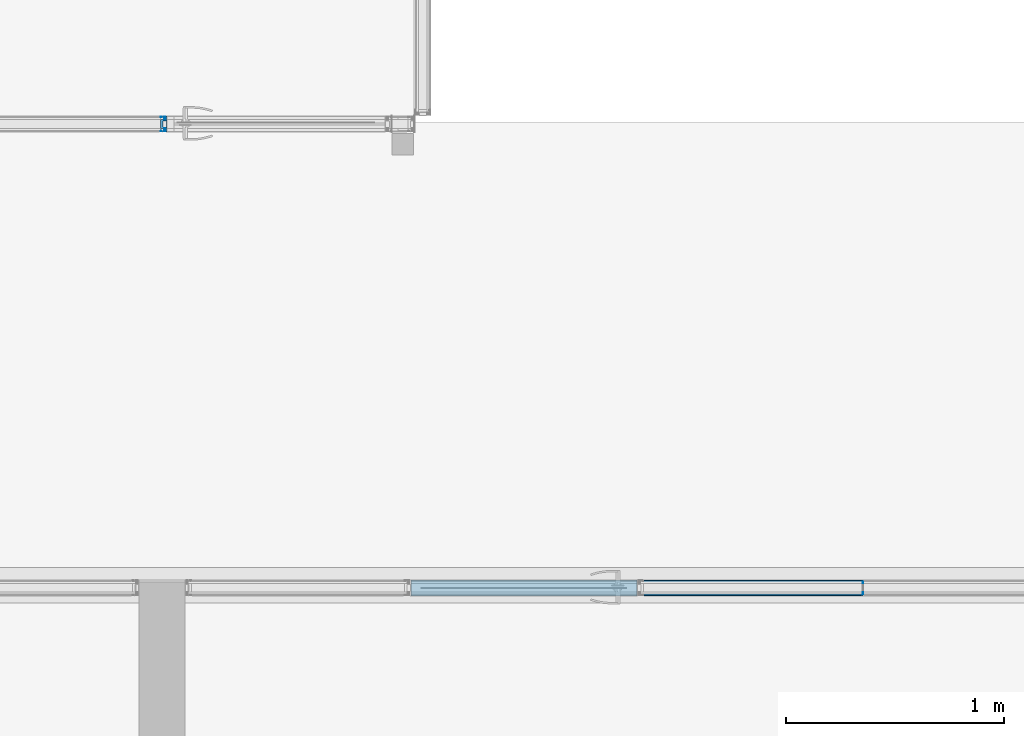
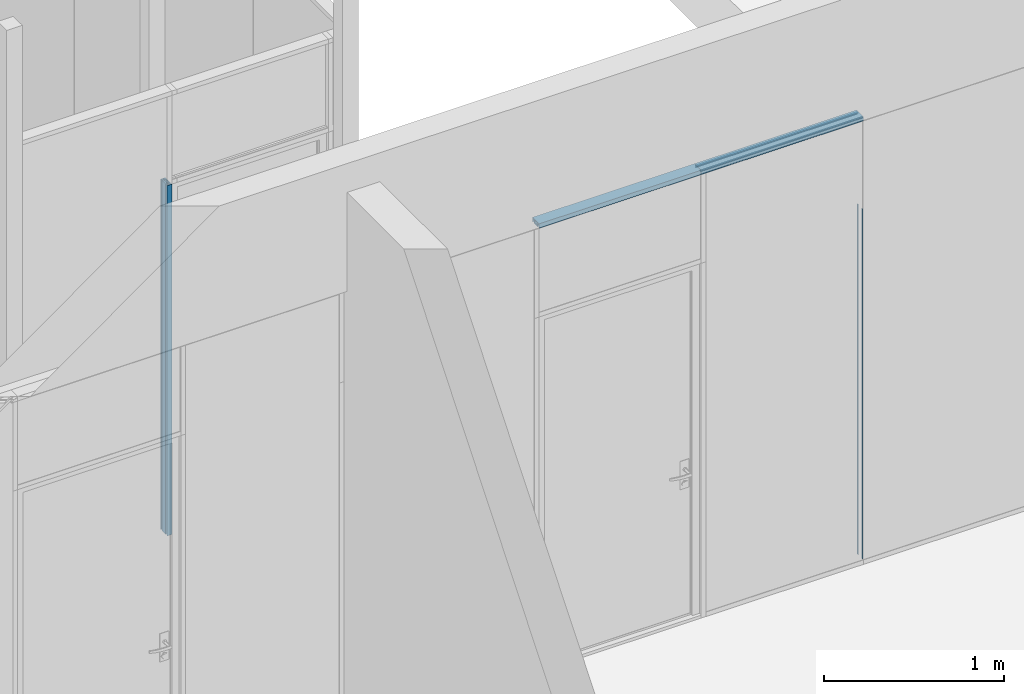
# One storey, part 81 of 387: 6 building element parts, 6 elements without a shape of their own.
"""IFC2X3 building model written with IfcOpenShell, lengths in millimetres."""

from ifc_helpers import new_model, entity, si_unit, converted_unit, derived_unit, money_unit, direction, frame, origin_with_axes, place, context, subcontext, project, spatial, faceted_brep, source, transform, mapped, material, type_object, element, aggregate, save


model = new_model("IFC2X3")

# Units and contexts
model_context = context("Model", 3, precision=0.01, world=origin_with_axes(), true_north=direction((0.0, 1.0)))
body_context = subcontext(model_context, "Body", "Model", "MODEL_VIEW")
ifc_project = project(units=[si_unit("LENGTHUNIT", "METRE", prefix="MILLI"), si_unit("AREAUNIT", "SQUARE_METRE"), si_unit("VOLUMEUNIT", "CUBIC_METRE"), converted_unit("PLANEANGLEUNIT", "DEGREE", entity("IfcPlaneAngleMeasure", 0.0174532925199), si_unit("PLANEANGLEUNIT", "RADIAN"), dimensions=[0, 0, 0, 0, 0, 0, 0]), si_unit("SOLIDANGLEUNIT", "STERADIAN"), money_unit("EUR"), converted_unit("TIMEUNIT", "Year", entity("IfcTimeMeasure", 31556926.0), si_unit("TIMEUNIT", "SECOND"), dimensions=[0, 0, 1, 0, 0, 0, 0]), si_unit("MASSUNIT", "GRAM", prefix="KILO"), si_unit("THERMODYNAMICTEMPERATUREUNIT", "DEGREE_CELSIUS"), si_unit("LUMINOUSINTENSITYUNIT", "LUMEN"), si_unit("ENERGYUNIT", "JOULE", prefix="MEGA"), derived_unit("THERMALCONDUCTANCEUNIT", [(si_unit("POWERUNIT", "WATT"), 1), (si_unit("LENGTHUNIT", "METRE"), -1), (si_unit("THERMODYNAMICTEMPERATUREUNIT", "KELVIN"), -1)]), derived_unit("SPECIFICHEATCAPACITYUNIT", [(si_unit("ENERGYUNIT", "JOULE"), 1), (si_unit("MASSUNIT", "GRAM", prefix="KILO"), -1), (si_unit("THERMODYNAMICTEMPERATUREUNIT", "KELVIN"), -1)]), derived_unit("MASSDENSITYUNIT", [(si_unit("MASSUNIT", "GRAM", prefix="KILO"), 1), (si_unit("VOLUMEUNIT", "CUBIC_METRE"), -1)])], contexts=[model_context])

# Site, building, storey
site_placement = place(None, origin_with_axes())
site = spatial("IfcSite", under=ifc_project, at=site_placement, Name="Puškini 31, Narva", CompositionType="ELEMENT")
building_placement = place(site_placement, origin_with_axes())
building = spatial("IfcBuilding", under=site, at=building_placement, Name="Narva Riigigümnaasium", CompositionType="ELEMENT")
storey_placement = place(building_placement, frame((0.0, 0.0, 2640.0), z_axis=(0.0, 0.0, 1.0), x_axis=(1.0, 0.0, 0.0)))
storey = spatial("IfcBuildingStorey", under=building, at=storey_placement, Name="2.korrus +2.64", CompositionType="ELEMENT", Elevation=2640.0)

# Curtain wall, member, building element part
curtain_wall_type = type_object("IfcCurtainWallType", Name="Curtain Wall Type", PredefinedType="NOTDEFINED")
curtain_wall_1_placement = place(storey_placement, frame((41856.9999981, 173462.999993, -5.89838209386e-05), z_axis=(0.0, 0.0, 1.0), x_axis=(1.0, 0.0, 0.0)))
curtain_wall_1 = element("IfcCurtainWall", 1, at=curtain_wall_1_placement, inside=storey, type_object=curtain_wall_type, Name="G-SKLF-26")
member_type_1 = type_object("IfcMemberType", Name="Siseklaasfassaad - Raam n2htamatu 3 x 29", PredefinedType="MULLION")
member_1_placement = place(curtain_wall_1_placement, frame((1557.0, -1.52624579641e-08, 0.0), z_axis=(0.0, 0.0, 1.0), x_axis=(-1.0, 0.0, 0.0)))
member_1 = element("IfcMember", 2, at=member_1_placement, type_object=member_type_1, Name="Frame-Siseklaasf-005", ObjectType="MULLION")
ifc_material_1 = material(Name="Klaas")
shared_shape_1 = source(origin_with_axes(), body_context, "Body", "Brep", [
    faceted_brep([(-1.5000138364, 20.0064497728, 30.0000193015), (1.4999861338, 20.0064497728, 30.0000193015), (1.4999861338, 20.0064497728, 2400.00012431), (-1.5000138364, 20.0064497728, 2400.00012431), (-1.5000138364, 29.0064496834, 30.0000193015), (1.4999861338, 29.0064496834, 30.0000193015), (1.4999861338, 29.0064496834, 2400.00012431), (-1.5000138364, 29.0064496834, 2400.00012431)], [[[0, 1, 2, 3]], [[1, 0, 4, 5]], [[1, 5, 6, 2]], [[2, 6, 7, 3]], [[4, 0, 3, 7]], [[5, 4, 7, 6]]]),
    faceted_brep([(1.4999861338, -28.9935503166, 30.0000193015), (1.4999861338, -19.993550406, 30.0000193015), (1.4999861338, -19.993550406, 2400.00012431), (1.4999861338, -28.9935503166, 2400.00012431), (-1.5000138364, -28.9935503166, 30.0000193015), (-1.5000138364, -19.993550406, 30.0000193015), (-1.5000138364, -19.993550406, 2400.00012431), (-1.5000138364, -28.9935503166, 2400.00012431)], [[[0, 1, 2, 3]], [[1, 0, 4, 5]], [[1, 5, 6, 2]], [[2, 6, 7, 3]], [[4, 0, 3, 7]], [[5, 4, 7, 6]]]),
])
building_element_part_1_placement = place(member_1_placement, origin_with_axes())
building_element_part_1 = element("IfcBuildingElementPart", 3, at=building_element_part_1_placement, material=ifc_material_1, Name="Klaas", context=body_context, shape_type="MappedRepresentation", body=[
    mapped(shared_shape_1, transform((0.0, 0.0, 0.0), x_axis=(-1.0, 0.0, 0.0), y_axis=(0.0, -1.0, 0.0), z_axis=(0.0, 0.0, 1.0))),
])
aggregate(member_1, [building_element_part_1])

# Curtain wall, member, building element parts
curtain_wall_2_placement = place(storey_placement, frame((41281.9672345, 175592.500019, -3.22566622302e-05), z_axis=(0.0, 0.0, 1.0), x_axis=(1.0, 0.0, 0.0)))
curtain_wall_2 = element("IfcCurtainWall", 4, at=curtain_wall_2_placement, inside=storey, type_object=curtain_wall_type, Name="G-SKLF-38")
member_type_2 = type_object("IfcMemberType", Name="30 x 37", PredefinedType="MULLION")
member_2_placement = place(curtain_wall_2_placement, frame((-1063.6642258, 1.90425453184e-09, 0.0), z_axis=(0.0, 0.0, 1.0), x_axis=(-1.0, 0.0, 0.0)))
member_2 = element("IfcMember", 5, at=member_2_placement, type_object=member_type_2, Name="G-SKLF-52-raam", ObjectType="MULLION")
aggregate(curtain_wall_2, [member_2])
ifc_material_2 = material(Name="Klaasvill")
shared_shape_2 = source(origin_with_axes(), body_context, "Body", "Brep", [
    faceted_brep([(13.8499999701, 20.000000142, 30.0000193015), (13.8499999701, 20.000000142, 2400.0), (7.49999990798, 20.000000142, 2400.0), (7.49999990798, 20.000000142, 30.0000193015), (13.8499999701, 34.0161444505, 30.0000193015), (13.8499999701, 34.0161444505, 2400.0), (7.49999990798, 34.0161444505, 2400.0), (7.49999990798, 34.0161444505, 30.0000193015)], [[[0, 1, 2, 3]], [[4, 5, 1, 0]], [[2, 1, 5, 6]], [[3, 2, 6, 7]], [[3, 7, 4, 0]], [[7, 6, 5, 4]]]),
    faceted_brep([(25.004489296, 32.0307503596, 30.0000193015), (25.004489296, 32.0307503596, 2400.0), (24.987414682, 34.0161444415, 2400.0), (24.987414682, 34.0161444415, 30.0000193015), (25.742237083, 31.2930025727, 30.0000193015), (25.742237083, 31.2930025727, 2400.0), (26.7500193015, 31.0229681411, 2400.0), (27.75780152, 31.2930025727, 2400.0), (28.4955493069, 32.0307503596, 2400.0), (28.7655837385, 33.0385325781, 2400.0), (28.5126239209, 34.0161444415, 2400.0), (28.5126239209, 34.0161444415, 30.0000193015), (28.7655837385, 33.0385325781, 30.0000193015), (28.4955493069, 32.0307503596, 30.0000193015), (27.75780152, 31.2930025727, 30.0000193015), (26.7500193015, 31.0229681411, 30.0000193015)], [[[0, 1, 2, 3]], [[4, 5, 1, 0]], [[2, 1, 5, 6, 7, 8, 9, 10]], [[3, 2, 10, 11]], [[3, 11, 12, 13, 14, 15, 4, 0]], [[15, 6, 5, 4]], [[14, 7, 6, 15]], [[13, 8, 7, 14]], [[12, 9, 8, 13]], [[11, 10, 9, 12]]]),
    faceted_brep([(7.49999990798, -34.0161445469, 30.0000193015), (7.49999990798, -34.0161445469, 2400.0), (7.49999990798, -19.9999997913, 2400.0), (7.49999990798, -19.9999997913, 30.0000193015), (13.8499999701, -34.0161445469, 30.0000193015), (13.8499999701, -34.0161445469, 2400.0), (13.8499999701, -19.9999997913, 2400.0), (13.8499999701, -19.9999997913, 30.0000193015)], [[[0, 1, 2, 3]], [[4, 5, 1, 0]], [[2, 1, 5, 6]], [[3, 2, 6, 7]], [[3, 7, 4, 0]], [[7, 6, 5, 4]]]),
    faceted_brep([(24.987414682, -34.0161444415, 30.0000193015), (24.987414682, -34.0161444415, 2400.0), (25.004489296, -32.0307503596, 2400.0), (25.004489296, -32.0307503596, 30.0000193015), (28.5126239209, -34.0161444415, 30.0000193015), (28.5126239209, -34.0161444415, 2400.0), (28.7655837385, -33.0385325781, 2400.0), (28.4955493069, -32.0307503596, 2400.0), (27.75780152, -31.2930025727, 2400.0), (26.7500193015, -31.0229681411, 2400.0), (25.742237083, -31.2930025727, 2400.0), (25.742237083, -31.2930025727, 30.0000193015), (26.7500193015, -31.0229681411, 30.0000193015), (27.75780152, -31.2930025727, 30.0000193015), (28.4955493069, -32.0307503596, 30.0000193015), (28.7655837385, -33.0385325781, 30.0000193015)], [[[0, 1, 2, 3]], [[4, 5, 1, 0]], [[2, 1, 5, 6, 7, 8, 9, 10]], [[3, 2, 10, 11]], [[3, 11, 12, 13, 14, 15, 4, 0]], [[15, 6, 5, 4]], [[14, 7, 6, 15]], [[13, 8, 7, 14]], [[12, 9, 8, 13]], [[11, 10, 9, 12]]]),
])
building_element_part_2_placement = place(member_2_placement, origin_with_axes())
building_element_part_2 = element("IfcBuildingElementPart", 6, at=building_element_part_2_placement, material=ifc_material_2, Name="Klaasvill", context=body_context, shape_type="MappedRepresentation", body=[
    mapped(shared_shape_2, transform((0.0, 0.0, 0.0))),
])
ifc_material_3 = material(Name="Teras RAL7012")
shared_shape_3 = source(origin_with_axes(), body_context, "Body", "Brep", [
    faceted_brep([(29.5999996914, -17.0000000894, 30.0000193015), (29.5999996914, -17.0000000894, 2400.0), (0.0, -17.0000000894, 2400.0), (0.0, -17.0000000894, 30.0000193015), (29.5999996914, 17.0000000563, 30.0000193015), (29.5999996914, 17.0000000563, 2400.0), (0.0, 17.0000000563, 2400.0), (1.9999999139, 15.0000001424, 2400.0), (18.7999996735, 15.0000001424, 2400.0), (18.7999996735, -15.0000001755, 2400.0), (1.9999999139, -15.0000001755, 2400.0), (0.0, 17.0000000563, 30.0000193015), (1.9999999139, 15.0000001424, 30.0000193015), (1.9999999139, -15.0000001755, 30.0000193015), (18.7999996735, -15.0000001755, 30.0000193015), (18.7999996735, 15.0000001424, 30.0000193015)], [[[0, 1, 2, 3]], [[4, 5, 1, 0]], [[2, 1, 5, 6], [7, 8, 9, 10]], [[3, 2, 6, 11]], [[3, 11, 4, 0], [12, 13, 14, 15]], [[11, 6, 5, 4]], [[15, 8, 7, 12]], [[14, 9, 8, 15]], [[13, 10, 9, 14]], [[12, 7, 10, 13]]]),
    faceted_brep([(29.5999996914, 17.0000000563, 30.0000193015), (29.5999996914, 17.0000000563, 2400.0), (0.0, 17.0, 2400.0), (0.0, 17.0, 30.0000193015), (30.0000193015, 17.0, 30.0000193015), (30.0000193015, 17.0, 2400.0), (30.0000193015, 20.0, 2400.0), (13.8499999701, 20.000000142, 2400.0), (7.49999999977, 20.0, 2400.0), (7.49999999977, 34.0161444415, 2400.0), (13.8499999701, 34.0161444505, 2400.0), (24.987414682, 34.0161444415, 2400.0), (28.5126239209, 34.0161444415, 2400.0), (30.0000193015, 34.0161444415, 2400.0), (30.0000193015, 37.0, 2400.0), (0.0, 37.0, 2400.0), (0.0, 37.0, 30.0000193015), (30.0000193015, 37.0, 30.0000193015), (30.0000193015, 34.0161444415, 30.0000193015), (28.5126239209, 34.0161444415, 30.0000193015), (24.987414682, 34.0161444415, 30.0000193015), (13.8499999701, 34.0161444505, 30.0000193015), (7.49999999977, 34.0161444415, 30.0000193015), (7.49999999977, 20.0, 30.0000193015), (13.8499999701, 20.000000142, 30.0000193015), (30.0000193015, 20.0, 30.0000193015)], [[[0, 1, 2, 3]], [[4, 5, 1, 0]], [[2, 1, 5, 6, 7, 8, 9, 10, 11, 12, 13, 14, 15]], [[3, 2, 15, 16]], [[3, 16, 17, 18, 19, 20, 21, 22, 23, 24, 25, 4, 0]], [[25, 6, 5, 4]], [[24, 7, 6, 25]], [[23, 8, 7, 24]], [[22, 9, 8, 23]], [[21, 10, 9, 22]], [[20, 11, 10, 21]], [[19, 12, 11, 20]], [[18, 13, 12, 19]], [[17, 14, 13, 18]], [[16, 15, 14, 17]]]),
    faceted_brep([(0.0, -37.0, 30.0000193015), (0.0, -37.0, 2400.0), (0.0, -17.0, 2400.0), (0.0, -17.0, 30.0000193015), (30.0000193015, -37.0, 30.0000193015), (30.0000193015, -37.0, 2400.0), (30.0000193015, -34.0161444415, 2400.0), (28.5126239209, -34.0161444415, 2400.0), (24.987414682, -34.0161444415, 2400.0), (13.8499999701, -34.0161445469, 2400.0), (7.49999999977, -34.0161444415, 2400.0), (7.49999999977, -20.0, 2400.0), (13.8499999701, -19.9999997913, 2400.0), (30.0000193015, -20.0, 2400.0), (30.0000193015, -17.0, 2400.0), (29.5999996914, -17.0000000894, 2400.0), (29.5999996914, -17.0000000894, 30.0000193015), (30.0000193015, -17.0, 30.0000193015), (30.0000193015, -20.0, 30.0000193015), (13.8499999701, -19.9999997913, 30.0000193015), (7.49999999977, -20.0, 30.0000193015), (7.49999999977, -34.0161444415, 30.0000193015), (13.8499999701, -34.0161445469, 30.0000193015), (24.987414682, -34.0161444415, 30.0000193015), (28.5126239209, -34.0161444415, 30.0000193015), (30.0000193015, -34.0161444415, 30.0000193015)], [[[0, 1, 2, 3]], [[4, 5, 1, 0]], [[2, 1, 5, 6, 7, 8, 9, 10, 11, 12, 13, 14, 15]], [[3, 2, 15, 16]], [[3, 16, 17, 18, 19, 20, 21, 22, 23, 24, 25, 4, 0]], [[25, 6, 5, 4]], [[24, 7, 6, 25]], [[23, 8, 7, 24]], [[22, 9, 8, 23]], [[21, 10, 9, 22]], [[20, 11, 10, 21]], [[19, 12, 11, 20]], [[18, 13, 12, 19]], [[17, 14, 13, 18]], [[16, 15, 14, 17]]]),
])
building_element_part_3_placement = place(member_2_placement, origin_with_axes())
building_element_part_3 = element("IfcBuildingElementPart", 7, at=building_element_part_3_placement, material=ifc_material_3, Name="Teras RAL7012", context=body_context, shape_type="MappedRepresentation", body=[
    mapped(shared_shape_3, transform((0.0, 0.0, 0.0))),
])
aggregate(member_2, [building_element_part_2, building_element_part_3])

# Member, building element part
member_3_placement = place(curtain_wall_1_placement, frame((519.0, -5.05906427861e-09, 3029.99999291), z_axis=(1.0, 0.0, 0.0), x_axis=(0.0, 0.0, 1.0)))
member_3 = element("IfcMember", 8, at=member_3_placement, type_object=member_type_2, Name="G-SKLF-36-raam", ObjectType="MULLION")
shared_shape_4 = source(origin_with_axes(), body_context, "Body", "Brep", [
    faceted_brep([(7.49999990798, 20.000000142, 0.0), (13.8499999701, 20.000000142, 0.0), (13.8499999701, 20.000000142, 1038.0), (7.49999990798, 20.000000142, 1038.0), (7.49999990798, 34.0161444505, 0.0), (13.8499999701, 34.0161444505, 0.0), (13.8499999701, 34.0161444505, 1038.0), (7.49999990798, 34.0161444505, 1038.0)], [[[0, 1, 2, 3]], [[0, 4, 5, 1]], [[1, 5, 6, 2]], [[3, 2, 6, 7]], [[4, 0, 3, 7]], [[5, 4, 7, 6]]]),
    faceted_brep([(24.987414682, 34.0161444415, 0.0), (25.004489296, 32.0307503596, 0.0), (25.004489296, 32.0307503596, 1038.0), (24.987414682, 34.0161444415, 1038.0), (28.5126239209, 34.0161444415, 0.0), (28.7655837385, 33.0385325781, 0.0), (28.4955493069, 32.0307503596, 0.0), (27.75780152, 31.2930025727, 0.0), (26.7500193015, 31.0229681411, 0.0), (25.742237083, 31.2930025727, 0.0), (25.742237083, 31.2930025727, 1038.0), (26.7500193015, 31.0229681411, 1038.0), (27.75780152, 31.2930025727, 1038.0), (28.4955493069, 32.0307503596, 1038.0), (28.7655837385, 33.0385325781, 1038.0), (28.5126239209, 34.0161444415, 1038.0)], [[[0, 1, 2, 3]], [[0, 4, 5, 6, 7, 8, 9, 1]], [[1, 9, 10, 2]], [[3, 2, 10, 11, 12, 13, 14, 15]], [[4, 0, 3, 15]], [[5, 4, 15, 14]], [[6, 5, 14, 13]], [[7, 6, 13, 12]], [[8, 7, 12, 11]], [[9, 8, 11, 10]]]),
    faceted_brep([(7.49999990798, -19.9999997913, 0.0), (7.49999990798, -34.0161445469, 0.0), (7.49999990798, -34.0161445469, 1038.0), (7.49999990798, -19.9999997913, 1038.0), (13.8499999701, -19.9999997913, 0.0), (13.8499999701, -34.0161445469, 0.0), (13.8499999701, -34.0161445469, 1038.0), (13.8499999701, -19.9999997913, 1038.0)], [[[0, 1, 2, 3]], [[0, 4, 5, 1]], [[1, 5, 6, 2]], [[3, 2, 6, 7]], [[4, 0, 3, 7]], [[5, 4, 7, 6]]]),
    faceted_brep([(25.004489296, -32.0307503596, 0.0), (24.987414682, -34.0161444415, 0.0), (24.987414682, -34.0161444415, 1038.0), (25.004489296, -32.0307503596, 1038.0), (25.742237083, -31.2930025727, 0.0), (26.7500193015, -31.0229681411, 0.0), (27.75780152, -31.2930025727, 0.0), (28.4955493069, -32.0307503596, 0.0), (28.7655837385, -33.0385325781, 0.0), (28.5126239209, -34.0161444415, 0.0), (28.5126239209, -34.0161444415, 1038.0), (28.7655837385, -33.0385325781, 1038.0), (28.4955493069, -32.0307503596, 1038.0), (27.75780152, -31.2930025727, 1038.0), (26.7500193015, -31.0229681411, 1038.0), (25.742237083, -31.2930025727, 1038.0)], [[[0, 1, 2, 3]], [[0, 4, 5, 6, 7, 8, 9, 1]], [[1, 9, 10, 2]], [[3, 2, 10, 11, 12, 13, 14, 15]], [[4, 0, 3, 15]], [[5, 4, 15, 14]], [[6, 5, 14, 13]], [[7, 6, 13, 12]], [[8, 7, 12, 11]], [[9, 8, 11, 10]]]),
])
building_element_part_4_placement = place(member_3_placement, origin_with_axes())
building_element_part_4 = element("IfcBuildingElementPart", 9, at=building_element_part_4_placement, material=ifc_material_2, Name="Klaasvill", context=body_context, shape_type="MappedRepresentation", body=[
    mapped(shared_shape_4, transform((0.0, 0.0, 0.0), x_axis=(-1.0, 0.0, 0.0), y_axis=(0.0, -1.0, 0.0), z_axis=(0.0, 0.0, 1.0))),
])

# Member
member_4_placement = place(curtain_wall_1_placement, frame((-519.0, 5.11590769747e-09, 3029.99999291), z_axis=(1.0, 0.0, 0.0), x_axis=(0.0, 0.0, 1.0)))
member_4 = element("IfcMember", 10, at=member_4_placement, type_object=member_type_2, Name="G-SKLF-37-raam", ObjectType="MULLION")

aggregate(curtain_wall_1, [member_1, member_4, member_3])

# Building element part
shared_shape_5 = source(origin_with_axes(), body_context, "Body", "Brep", [
    faceted_brep([(0.0, -17.0000000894, 0.0), (29.5999996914, -17.0000000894, 0.0), (29.5999996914, -17.0000000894, 1038.0), (0.0, -17.0000000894, 1038.0), (0.0, 17.0000000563, 0.0), (29.5999996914, 17.0000000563, 0.0), (1.9999999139, 15.0000001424, 0.0), (1.9999999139, -15.0000001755, 0.0), (18.7999996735, -15.0000001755, 0.0), (18.7999996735, 15.0000001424, 0.0), (29.5999996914, 17.0000000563, 1038.0), (0.0, 17.0000000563, 1038.0), (1.9999999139, 15.0000001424, 1038.0), (18.7999996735, 15.0000001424, 1038.0), (18.7999996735, -15.0000001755, 1038.0), (1.9999999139, -15.0000001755, 1038.0)], [[[0, 1, 2, 3]], [[0, 4, 5, 1], [6, 7, 8, 9]], [[1, 5, 10, 2]], [[3, 2, 10, 11], [12, 13, 14, 15]], [[4, 0, 3, 11]], [[5, 4, 11, 10]], [[7, 6, 12, 15]], [[8, 7, 15, 14]], [[9, 8, 14, 13]], [[6, 9, 13, 12]]]),
    faceted_brep([(0.0, 17.0, 0.0), (29.5999996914, 17.0000000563, 0.0), (29.5999996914, 17.0000000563, 1038.0), (0.0, 17.0, 1038.0), (0.0, 37.0, 0.0), (30.0000193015, 37.0, 0.0), (30.0000193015, 34.0161444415, 0.0), (28.5126239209, 34.0161444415, 0.0), (24.987414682, 34.0161444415, 0.0), (13.8499999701, 34.0161444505, 0.0), (7.49999999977, 34.0161444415, 0.0), (7.49999999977, 20.0, 0.0), (13.8499999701, 20.000000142, 0.0), (30.0000193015, 20.0, 0.0), (30.0000193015, 17.0, 0.0), (30.0000193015, 17.0, 1038.0), (30.0000193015, 20.0, 1038.0), (13.8499999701, 20.000000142, 1038.0), (7.49999999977, 20.0, 1038.0), (7.49999999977, 34.0161444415, 1038.0), (13.8499999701, 34.0161444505, 1038.0), (24.987414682, 34.0161444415, 1038.0), (28.5126239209, 34.0161444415, 1038.0), (30.0000193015, 34.0161444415, 1038.0), (30.0000193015, 37.0, 1038.0), (0.0, 37.0, 1038.0)], [[[0, 1, 2, 3]], [[0, 4, 5, 6, 7, 8, 9, 10, 11, 12, 13, 14, 1]], [[1, 14, 15, 2]], [[3, 2, 15, 16, 17, 18, 19, 20, 21, 22, 23, 24, 25]], [[4, 0, 3, 25]], [[5, 4, 25, 24]], [[6, 5, 24, 23]], [[7, 6, 23, 22]], [[8, 7, 22, 21]], [[9, 8, 21, 20]], [[10, 9, 20, 19]], [[11, 10, 19, 18]], [[12, 11, 18, 17]], [[13, 12, 17, 16]], [[14, 13, 16, 15]]]),
    faceted_brep([(0.0, -17.0, 0.0), (0.0, -37.0, 0.0), (0.0, -37.0, 1038.0), (0.0, -17.0, 1038.0), (29.5999996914, -17.0000000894, 0.0), (30.0000193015, -17.0, 0.0), (30.0000193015, -20.0, 0.0), (13.8499999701, -19.9999997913, 0.0), (7.49999999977, -20.0, 0.0), (7.49999999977, -34.0161444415, 0.0), (13.8499999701, -34.0161445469, 0.0), (24.987414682, -34.0161444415, 0.0), (28.5126239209, -34.0161444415, 0.0), (30.0000193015, -34.0161444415, 0.0), (30.0000193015, -37.0, 0.0), (30.0000193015, -37.0, 1038.0), (30.0000193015, -34.0161444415, 1038.0), (28.5126239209, -34.0161444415, 1038.0), (24.987414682, -34.0161444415, 1038.0), (13.8499999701, -34.0161445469, 1038.0), (7.49999999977, -34.0161444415, 1038.0), (7.49999999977, -20.0, 1038.0), (13.8499999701, -19.9999997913, 1038.0), (30.0000193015, -20.0, 1038.0), (30.0000193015, -17.0, 1038.0), (29.5999996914, -17.0000000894, 1038.0)], [[[0, 1, 2, 3]], [[0, 4, 5, 6, 7, 8, 9, 10, 11, 12, 13, 14, 1]], [[1, 14, 15, 2]], [[3, 2, 15, 16, 17, 18, 19, 20, 21, 22, 23, 24, 25]], [[4, 0, 3, 25]], [[5, 4, 25, 24]], [[6, 5, 24, 23]], [[7, 6, 23, 22]], [[8, 7, 22, 21]], [[9, 8, 21, 20]], [[10, 9, 20, 19]], [[11, 10, 19, 18]], [[12, 11, 18, 17]], [[13, 12, 17, 16]], [[14, 13, 16, 15]]]),
])
building_element_part_5_placement = place(member_4_placement, origin_with_axes())
building_element_part_5 = element("IfcBuildingElementPart", 11, at=building_element_part_5_placement, material=ifc_material_3, Name="Teras RAL7012", context=body_context, shape_type="MappedRepresentation", body=[
    mapped(shared_shape_5, transform((0.0, 0.0, 0.0), x_axis=(-1.0, 0.0, 0.0), y_axis=(0.0, -1.0, 0.0), z_axis=(0.0, 0.0, 1.0))),
])

aggregate(member_4, [building_element_part_5])

building_element_part_6_placement = place(member_3_placement, origin_with_axes())
building_element_part_6 = element("IfcBuildingElementPart", 12, at=building_element_part_6_placement, material=ifc_material_3, Name="Teras RAL7012", context=body_context, shape_type="MappedRepresentation", body=[
    mapped(shared_shape_5, transform((0.0, 0.0, 0.0), x_axis=(-1.0, 0.0, 0.0), y_axis=(0.0, -1.0, 0.0), z_axis=(0.0, 0.0, 1.0))),
])

aggregate(member_3, [building_element_part_4, building_element_part_6])

save(model, "model.ifc")
